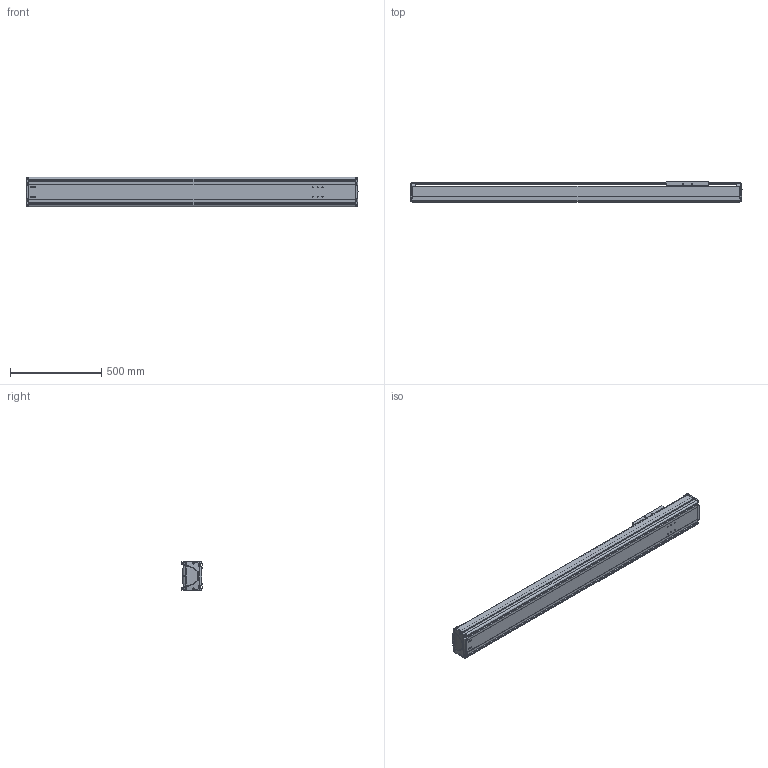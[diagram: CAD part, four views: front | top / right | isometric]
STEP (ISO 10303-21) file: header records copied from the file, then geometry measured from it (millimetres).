
FILE_DESCRIPTION((''),'2;1');
FILE_NAME('BE50G-ST-L_B-D5_IGS_PRT','2017-06-18T',(' '),(''),'PRO/ENGINEER BY PARAMETRIC TECHNOLOGY CORPORATION, 2015030','PRO/ENGINEER BY PARAMETRIC TECHNOLOGY CORPORATION, 2015030','');
FILE_SCHEMA(('CONFIG_CONTROL_DESIGN'));
Length unit declared in the file: millimetre
Products named in the file (1): BE50G-ST-L_B-D5_IGS_PRT
Bounding box: 1814.98 x 110 x 160 mm (x, y, z)
Volume: 7579842.7 mm3; surface area: 2744400.8 mm2
Topology: 3 solids, 112 shells, 1754 faces, 4718 edges, 3049 vertices
Faces by surface type: cylinder 820, plane 611, bspline 102, cone 94, torus 87, sphere 40
Entity records: 61037 total; most frequent: CARTESIAN_POINT 17656, ORIENTED_EDGE 8938, DIRECTION 8820, EDGE_CURVE 4684, AXIS2_PLACEMENT_3D 3326, VERTEX_POINT 3041, VECTOR 2168, LINE 2168
